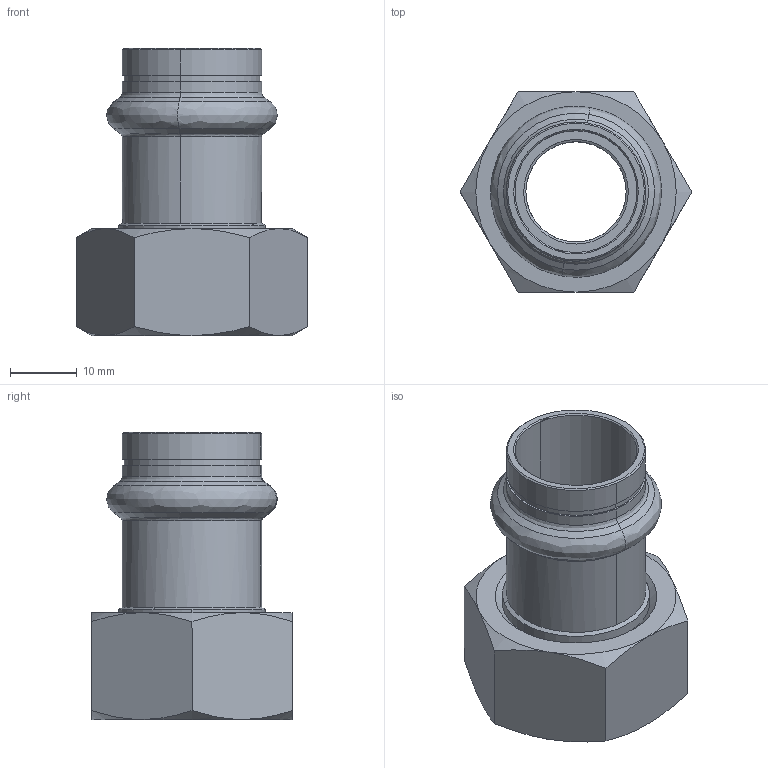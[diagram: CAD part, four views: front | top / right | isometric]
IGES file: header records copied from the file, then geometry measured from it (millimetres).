
Start section: Elysium IGES Interface
Global section: file name: C:\Users\Wallenburg\Desktop\3d modellen sudo\S-Pr VP\SP6359GV\6359GVW1834.igs; native system: CoCreate Modeling 17.00A  17-Jun-2010; preprocessor: CoCreate IGES_3D V2.2; author: Unknown; organization: Unknown; date: 20130124.130153; units: millimetre
Bounding box: 34.64 x 30 x 42.96 mm (x, y, z)
Volume: 10031 mm3; surface area: 8370.3 mm2
Topology: 2 solids, 2 shells, 84 faces, 188 edges, 112 vertices
Faces by surface type: bspline 84
